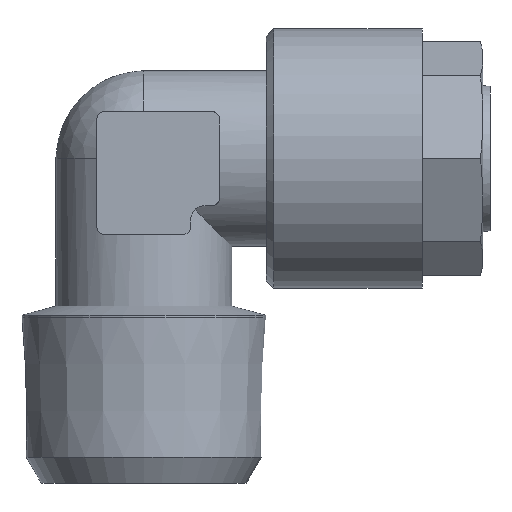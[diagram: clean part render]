
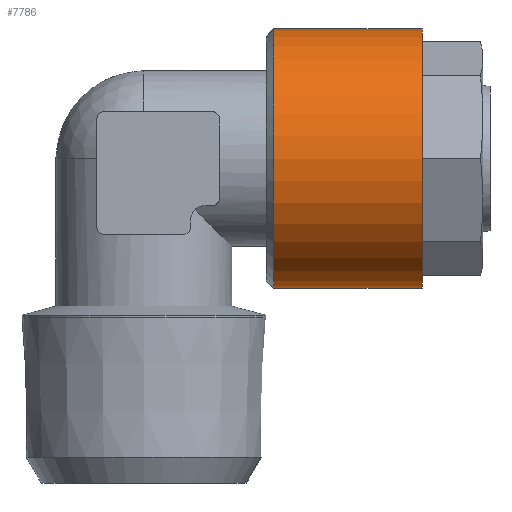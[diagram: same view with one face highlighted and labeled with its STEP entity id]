
A CAD part, front view. The second image highlights one B-rep face of the part: STEP entity #7786.
In plain terms, the highlighted cylindrical face has radius 9 mm (diameter 18 mm), a full revolution.
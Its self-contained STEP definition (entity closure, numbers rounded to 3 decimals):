
#1949=CYLINDRICAL_SURFACE('',#7622,9.);
#2064=ORIENTED_EDGE('',*,*,#2545,.F.);
#2065=ORIENTED_EDGE('',*,*,#2546,.T.);
#2329=CIRCLE('',#7621,9.);
#2330=CIRCLE('',#7623,9.);
#2407=VERTEX_POINT('',#3393);
#2408=VERTEX_POINT('',#3396);
#2545=EDGE_CURVE('',#2407,#2407,#2329,.T.);
#2546=EDGE_CURVE('',#2408,#2408,#2330,.T.);
#2699=EDGE_LOOP('',(#2064));
#2700=EDGE_LOOP('',(#2065));
#2812=FACE_BOUND('',#2699,.T.);
#2813=FACE_BOUND('',#2700,.T.);
#3015=DIRECTION('',(0.,1.,0.));
#3016=DIRECTION('',(0.,0.,9.));
#3017=DIRECTION('',(0.,1.,0.));
#3018=DIRECTION('',(1.,0.,0.));
#3019=DIRECTION('',(0.,1.,0.));
#3020=DIRECTION('',(0.,0.,-9.));
#3393=CARTESIAN_POINT('',(26.989,25.395,9.));
#3394=CARTESIAN_POINT('',(26.989,25.395,0.));
#3395=CARTESIAN_POINT('',(26.989,15.095,0.));
#3396=CARTESIAN_POINT('',(26.989,15.095,-9.));
#3397=CARTESIAN_POINT('',(26.989,15.095,0.));
#7621=AXIS2_PLACEMENT_3D('',#3394,#3015,#3016);
#7622=AXIS2_PLACEMENT_3D('',#3395,#3017,#3018);
#7623=AXIS2_PLACEMENT_3D('',#3397,#3019,#3020);
#7786=ADVANCED_FACE('',(#2812,#2813),#1949,.T.);
